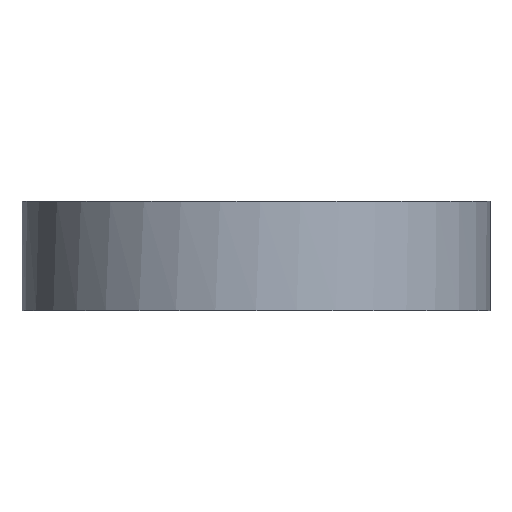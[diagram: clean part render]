
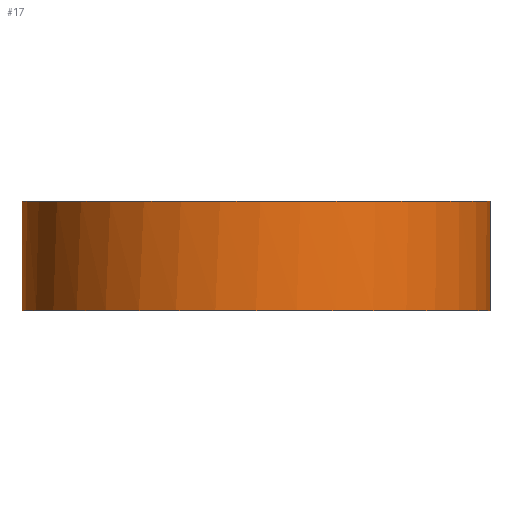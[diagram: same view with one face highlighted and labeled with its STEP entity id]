
A CAD part, front view. The second image highlights one B-rep face of the part: STEP entity #17.
In plain terms, the highlighted cylindrical face has radius 145 mm (diameter 290 mm), a full revolution.
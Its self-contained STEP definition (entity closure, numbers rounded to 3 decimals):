
#17 = ADVANCED_FACE('',(#18),#32,.T.);
#18 = FACE_BOUND('',#19,.T.);
#19 = EDGE_LOOP('',(#20,#50,#79,#105,#134,#160,#182,#183));
#20 = ORIENTED_EDGE('',*,*,#21,.T.);
#21 = EDGE_CURVE('',#22,#24,#26,.T.);
#22 = VERTEX_POINT('',#23);
#23 = CARTESIAN_POINT('',(-350.,155.,237.));
#24 = VERTEX_POINT('',#25);
#25 = CARTESIAN_POINT('',(-350.,155.,305.));
#26 = SEAM_CURVE('',#27,(#31,#43),.PCURVE_S1.);
#27 = LINE('',#28,#29);
#28 = CARTESIAN_POINT('',(-350.,155.,237.));
#29 = VECTOR('',#30,1.);
#30 = DIRECTION('',(0.,0.,1.));
#31 = PCURVE('',#32,#37);
#32 = CYLINDRICAL_SURFACE('',#33,145.);
#33 = AXIS2_PLACEMENT_3D('',#34,#35,#36);
#34 = CARTESIAN_POINT('',(-495.,155.,237.));
#35 = DIRECTION('',(0.,0.,1.));
#36 = DIRECTION('',(1.,0.,-0.));
#37 = DEFINITIONAL_REPRESENTATION('',(#38),#42);
#38 = LINE('',#39,#40);
#39 = CARTESIAN_POINT('',(6.283,-0.));
#40 = VECTOR('',#41,1.);
#41 = DIRECTION('',(0.,1.));
#42 = ( GEOMETRIC_REPRESENTATION_CONTEXT(2) 
PARAMETRIC_REPRESENTATION_CONTEXT() REPRESENTATION_CONTEXT('2D SPACE',''
  ) );
#43 = PCURVE('',#32,#44);
#44 = DEFINITIONAL_REPRESENTATION('',(#45),#49);
#45 = LINE('',#46,#47);
#46 = CARTESIAN_POINT('',(0.,-0.));
#47 = VECTOR('',#48,1.);
#48 = DIRECTION('',(0.,1.));
#49 = ( GEOMETRIC_REPRESENTATION_CONTEXT(2) 
PARAMETRIC_REPRESENTATION_CONTEXT() REPRESENTATION_CONTEXT('2D SPACE',''
  ) );
#50 = ORIENTED_EDGE('',*,*,#51,.F.);
#51 = EDGE_CURVE('',#52,#24,#54,.T.);
#52 = VERTEX_POINT('',#53);
#53 = CARTESIAN_POINT('',(-390.,255.,305.));
#54 = SURFACE_CURVE('',#55,(#60,#67),.PCURVE_S1.);
#55 = CIRCLE('',#56,145.);
#56 = AXIS2_PLACEMENT_3D('',#57,#58,#59);
#57 = CARTESIAN_POINT('',(-495.,155.,305.));
#58 = DIRECTION('',(0.,0.,1.));
#59 = DIRECTION('',(1.,0.,-0.));
#60 = PCURVE('',#32,#61);
#61 = DEFINITIONAL_REPRESENTATION('',(#62),#66);
#62 = LINE('',#63,#64);
#63 = CARTESIAN_POINT('',(0.,68.));
#64 = VECTOR('',#65,1.);
#65 = DIRECTION('',(1.,0.));
#66 = ( GEOMETRIC_REPRESENTATION_CONTEXT(2) 
PARAMETRIC_REPRESENTATION_CONTEXT() REPRESENTATION_CONTEXT('2D SPACE',''
  ) );
#67 = PCURVE('',#68,#73);
#68 = PLANE('',#69);
#69 = AXIS2_PLACEMENT_3D('',#70,#71,#72);
#70 = CARTESIAN_POINT('',(-495.,155.,305.));
#71 = DIRECTION('',(0.,0.,1.));
#72 = DIRECTION('',(1.,0.,-0.));
#73 = DEFINITIONAL_REPRESENTATION('',(#74),#78);
#74 = CIRCLE('',#75,145.);
#75 = AXIS2_PLACEMENT_2D('',#76,#77);
#76 = CARTESIAN_POINT('',(0.,0.));
#77 = DIRECTION('',(1.,0.));
#78 = ( GEOMETRIC_REPRESENTATION_CONTEXT(2) 
PARAMETRIC_REPRESENTATION_CONTEXT() REPRESENTATION_CONTEXT('2D SPACE',''
  ) );
#79 = ORIENTED_EDGE('',*,*,#80,.F.);
#80 = EDGE_CURVE('',#81,#52,#83,.T.);
#81 = VERTEX_POINT('',#82);
#82 = CARTESIAN_POINT('',(-390.,255.,274.));
#83 = SURFACE_CURVE('',#84,(#88,#94),.PCURVE_S1.);
#84 = LINE('',#85,#86);
#85 = CARTESIAN_POINT('',(-390.,255.,237.));
#86 = VECTOR('',#87,1.);
#87 = DIRECTION('',(0.,0.,1.));
#88 = PCURVE('',#32,#89);
#89 = DEFINITIONAL_REPRESENTATION('',(#90),#93);
#90 = B_SPLINE_CURVE_WITH_KNOTS('',1,(#91,#92),.UNSPECIFIED.,.F.,.F.,(2,
    2),(33.2,68.),.PIECEWISE_BEZIER_KNOTS.);
#91 = CARTESIAN_POINT('',(0.761,33.2));
#92 = CARTESIAN_POINT('',(0.761,68.));
#93 = ( GEOMETRIC_REPRESENTATION_CONTEXT(2) 
PARAMETRIC_REPRESENTATION_CONTEXT() REPRESENTATION_CONTEXT('2D SPACE',''
  ) );
#94 = PCURVE('',#95,#100);
#95 = PLANE('',#96);
#96 = AXIS2_PLACEMENT_3D('',#97,#98,#99);
#97 = CARTESIAN_POINT('',(-390.,202.,274.));
#98 = DIRECTION('',(1.,0.,-0.));
#99 = DIRECTION('',(0.,0.,1.));
#100 = DEFINITIONAL_REPRESENTATION('',(#101),#104);
#101 = B_SPLINE_CURVE_WITH_KNOTS('',1,(#102,#103),.UNSPECIFIED.,.F.,.F.,
  (2,2),(33.2,68.),.PIECEWISE_BEZIER_KNOTS.);
#102 = CARTESIAN_POINT('',(-3.8,-53.));
#103 = CARTESIAN_POINT('',(31.,-53.));
#104 = ( GEOMETRIC_REPRESENTATION_CONTEXT(2) 
PARAMETRIC_REPRESENTATION_CONTEXT() REPRESENTATION_CONTEXT('2D SPACE',''
  ) );
#105 = ORIENTED_EDGE('',*,*,#106,.F.);
#106 = EDGE_CURVE('',#107,#81,#109,.T.);
#107 = VERTEX_POINT('',#108);
#108 = CARTESIAN_POINT('',(-357.829,202.,274.));
#109 = SURFACE_CURVE('',#110,(#115,#122),.PCURVE_S1.);
#110 = CIRCLE('',#111,145.);
#111 = AXIS2_PLACEMENT_3D('',#112,#113,#114);
#112 = CARTESIAN_POINT('',(-495.,155.,274.));
#113 = DIRECTION('',(0.,0.,1.));
#114 = DIRECTION('',(1.,0.,-0.));
#115 = PCURVE('',#32,#116);
#116 = DEFINITIONAL_REPRESENTATION('',(#117),#121);
#117 = LINE('',#118,#119);
#118 = CARTESIAN_POINT('',(0.,37.));
#119 = VECTOR('',#120,1.);
#120 = DIRECTION('',(1.,0.));
#121 = ( GEOMETRIC_REPRESENTATION_CONTEXT(2) 
PARAMETRIC_REPRESENTATION_CONTEXT() REPRESENTATION_CONTEXT('2D SPACE',''
  ) );
#122 = PCURVE('',#123,#128);
#123 = PLANE('',#124);
#124 = AXIS2_PLACEMENT_3D('',#125,#126,#127);
#125 = CARTESIAN_POINT('',(-390.,202.,274.));
#126 = DIRECTION('',(0.,0.,1.));
#127 = DIRECTION('',(1.,0.,-0.));
#128 = DEFINITIONAL_REPRESENTATION('',(#129),#133);
#129 = CIRCLE('',#130,145.);
#130 = AXIS2_PLACEMENT_2D('',#131,#132);
#131 = CARTESIAN_POINT('',(-105.,-47.));
#132 = DIRECTION('',(1.,0.));
#133 = ( GEOMETRIC_REPRESENTATION_CONTEXT(2) 
PARAMETRIC_REPRESENTATION_CONTEXT() REPRESENTATION_CONTEXT('2D SPACE',''
  ) );
#134 = ORIENTED_EDGE('',*,*,#135,.T.);
#135 = EDGE_CURVE('',#107,#136,#138,.T.);
#136 = VERTEX_POINT('',#137);
#137 = CARTESIAN_POINT('',(-357.829,202.,305.));
#138 = SURFACE_CURVE('',#139,(#143,#149),.PCURVE_S1.);
#139 = LINE('',#140,#141);
#140 = CARTESIAN_POINT('',(-357.829,202.,237.));
#141 = VECTOR('',#142,1.);
#142 = DIRECTION('',(0.,0.,1.));
#143 = PCURVE('',#32,#144);
#144 = DEFINITIONAL_REPRESENTATION('',(#145),#148);
#145 = B_SPLINE_CURVE_WITH_KNOTS('',1,(#146,#147),.UNSPECIFIED.,.F.,.F.,
  (2,2),(33.2,68.),.PIECEWISE_BEZIER_KNOTS.);
#146 = CARTESIAN_POINT('',(0.33,33.2));
#147 = CARTESIAN_POINT('',(0.33,68.));
#148 = ( GEOMETRIC_REPRESENTATION_CONTEXT(2) 
PARAMETRIC_REPRESENTATION_CONTEXT() REPRESENTATION_CONTEXT('2D SPACE',''
  ) );
#149 = PCURVE('',#150,#155);
#150 = PLANE('',#151);
#151 = AXIS2_PLACEMENT_3D('',#152,#153,#154);
#152 = CARTESIAN_POINT('',(-390.,202.,274.));
#153 = DIRECTION('',(-0.,1.,0.));
#154 = DIRECTION('',(0.,0.,1.));
#155 = DEFINITIONAL_REPRESENTATION('',(#156),#159);
#156 = B_SPLINE_CURVE_WITH_KNOTS('',1,(#157,#158),.UNSPECIFIED.,.F.,.F.,
  (2,2),(33.2,68.),.PIECEWISE_BEZIER_KNOTS.);
#157 = CARTESIAN_POINT('',(-3.8,32.171));
#158 = CARTESIAN_POINT('',(31.,32.171));
#159 = ( GEOMETRIC_REPRESENTATION_CONTEXT(2) 
PARAMETRIC_REPRESENTATION_CONTEXT() REPRESENTATION_CONTEXT('2D SPACE',''
  ) );
#160 = ORIENTED_EDGE('',*,*,#161,.F.);
#161 = EDGE_CURVE('',#24,#136,#162,.T.);
#162 = SURFACE_CURVE('',#163,(#168,#175),.PCURVE_S1.);
#163 = CIRCLE('',#164,145.);
#164 = AXIS2_PLACEMENT_3D('',#165,#166,#167);
#165 = CARTESIAN_POINT('',(-495.,155.,305.));
#166 = DIRECTION('',(0.,0.,1.));
#167 = DIRECTION('',(1.,0.,-0.));
#168 = PCURVE('',#32,#169);
#169 = DEFINITIONAL_REPRESENTATION('',(#170),#174);
#170 = LINE('',#171,#172);
#171 = CARTESIAN_POINT('',(0.,68.));
#172 = VECTOR('',#173,1.);
#173 = DIRECTION('',(1.,0.));
#174 = ( GEOMETRIC_REPRESENTATION_CONTEXT(2) 
PARAMETRIC_REPRESENTATION_CONTEXT() REPRESENTATION_CONTEXT('2D SPACE',''
  ) );
#175 = PCURVE('',#68,#176);
#176 = DEFINITIONAL_REPRESENTATION('',(#177),#181);
#177 = CIRCLE('',#178,145.);
#178 = AXIS2_PLACEMENT_2D('',#179,#180);
#179 = CARTESIAN_POINT('',(0.,0.));
#180 = DIRECTION('',(1.,0.));
#181 = ( GEOMETRIC_REPRESENTATION_CONTEXT(2) 
PARAMETRIC_REPRESENTATION_CONTEXT() REPRESENTATION_CONTEXT('2D SPACE',''
  ) );
#182 = ORIENTED_EDGE('',*,*,#21,.F.);
#183 = ORIENTED_EDGE('',*,*,#184,.T.);
#184 = EDGE_CURVE('',#22,#22,#185,.T.);
#185 = SURFACE_CURVE('',#186,(#191,#198),.PCURVE_S1.);
#186 = CIRCLE('',#187,145.);
#187 = AXIS2_PLACEMENT_3D('',#188,#189,#190);
#188 = CARTESIAN_POINT('',(-495.,155.,237.));
#189 = DIRECTION('',(0.,0.,1.));
#190 = DIRECTION('',(1.,0.,-0.));
#191 = PCURVE('',#32,#192);
#192 = DEFINITIONAL_REPRESENTATION('',(#193),#197);
#193 = LINE('',#194,#195);
#194 = CARTESIAN_POINT('',(0.,0.));
#195 = VECTOR('',#196,1.);
#196 = DIRECTION('',(1.,0.));
#197 = ( GEOMETRIC_REPRESENTATION_CONTEXT(2) 
PARAMETRIC_REPRESENTATION_CONTEXT() REPRESENTATION_CONTEXT('2D SPACE',''
  ) );
#198 = PCURVE('',#199,#204);
#199 = PLANE('',#200);
#200 = AXIS2_PLACEMENT_3D('',#201,#202,#203);
#201 = CARTESIAN_POINT('',(-495.,155.,237.));
#202 = DIRECTION('',(0.,0.,1.));
#203 = DIRECTION('',(1.,0.,-0.));
#204 = DEFINITIONAL_REPRESENTATION('',(#205),#209);
#205 = CIRCLE('',#206,145.);
#206 = AXIS2_PLACEMENT_2D('',#207,#208);
#207 = CARTESIAN_POINT('',(0.,0.));
#208 = DIRECTION('',(1.,0.));
#209 = ( GEOMETRIC_REPRESENTATION_CONTEXT(2) 
PARAMETRIC_REPRESENTATION_CONTEXT() REPRESENTATION_CONTEXT('2D SPACE',''
  ) );
